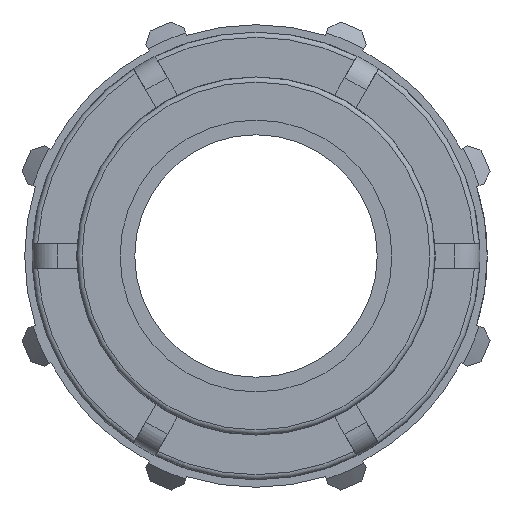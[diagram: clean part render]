
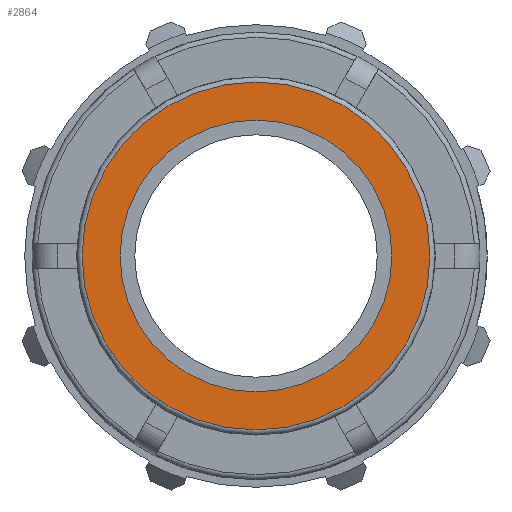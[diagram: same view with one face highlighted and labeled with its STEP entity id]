
A CAD part, left-side view. The second image highlights one B-rep face of the part: STEP entity #2864.
In plain terms, the highlighted planar face has unit normal (-1, 0, 0).
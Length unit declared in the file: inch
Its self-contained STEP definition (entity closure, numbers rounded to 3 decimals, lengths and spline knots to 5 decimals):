
#66=FACE_BOUND('',#814,.T.);
#549=PLANE('',#3106);
#659=FACE_OUTER_BOUND('',#813,.T.);
#813=EDGE_LOOP('',(#2161,#2162));
#814=EDGE_LOOP('',(#2163,#2164));
#973=CIRCLE('',#3103,1.12965);
#974=CIRCLE('',#3104,1.12965);
#976=CIRCLE('',#3107,0.88278);
#977=CIRCLE('',#3108,0.88278);
#1224=VERTEX_POINT('',#4875);
#1225=VERTEX_POINT('',#4877);
#1226=VERTEX_POINT('',#4882);
#1227=VERTEX_POINT('',#4883);
#1570=EDGE_CURVE('',#1224,#1225,#973,.T.);
#1571=EDGE_CURVE('',#1225,#1224,#974,.T.);
#1573=EDGE_CURVE('',#1226,#1227,#976,.T.);
#1574=EDGE_CURVE('',#1227,#1226,#977,.T.);
#2161=ORIENTED_EDGE('',*,*,#1571,.F.);
#2162=ORIENTED_EDGE('',*,*,#1570,.F.);
#2163=ORIENTED_EDGE('',*,*,#1573,.T.);
#2164=ORIENTED_EDGE('',*,*,#1574,.T.);
#2864=ADVANCED_FACE('',(#659,#66),#549,.T.);
#3103=AXIS2_PLACEMENT_3D('',#4878,#3631,#3632);
#3104=AXIS2_PLACEMENT_3D('',#4879,#3633,#3634);
#3106=AXIS2_PLACEMENT_3D('',#4881,#3637,#3638);
#3107=AXIS2_PLACEMENT_3D('',#4884,#3639,#3640);
#3108=AXIS2_PLACEMENT_3D('',#4885,#3641,#3642);
#3631=DIRECTION('center_axis',(1.,0.,0.));
#3632=DIRECTION('ref_axis',(0.,-1.,0.));
#3633=DIRECTION('center_axis',(1.,0.,0.));
#3634=DIRECTION('ref_axis',(0.,-1.,0.));
#3637=DIRECTION('center_axis',(-1.,0.,0.));
#3638=DIRECTION('ref_axis',(0.,0.,1.));
#3639=DIRECTION('center_axis',(1.,0.,0.));
#3640=DIRECTION('ref_axis',(0.,0.,-1.));
#3641=DIRECTION('center_axis',(1.,0.,0.));
#3642=DIRECTION('ref_axis',(0.,0.,-1.));
#4875=CARTESIAN_POINT('',(0.,0.,1.12965));
#4877=CARTESIAN_POINT('',(0.,1.12965,0.));
#4878=CARTESIAN_POINT('Origin',(0.,0.,0.));
#4879=CARTESIAN_POINT('Origin',(0.,0.,0.));
#4881=CARTESIAN_POINT('Origin',(0.,1.1628,0.));
#4882=CARTESIAN_POINT('',(0.,0.88278,0.));
#4883=CARTESIAN_POINT('',(0.,-0.88278,0.));
#4884=CARTESIAN_POINT('Origin',(0.,0.,0.));
#4885=CARTESIAN_POINT('Origin',(0.,0.,0.));
